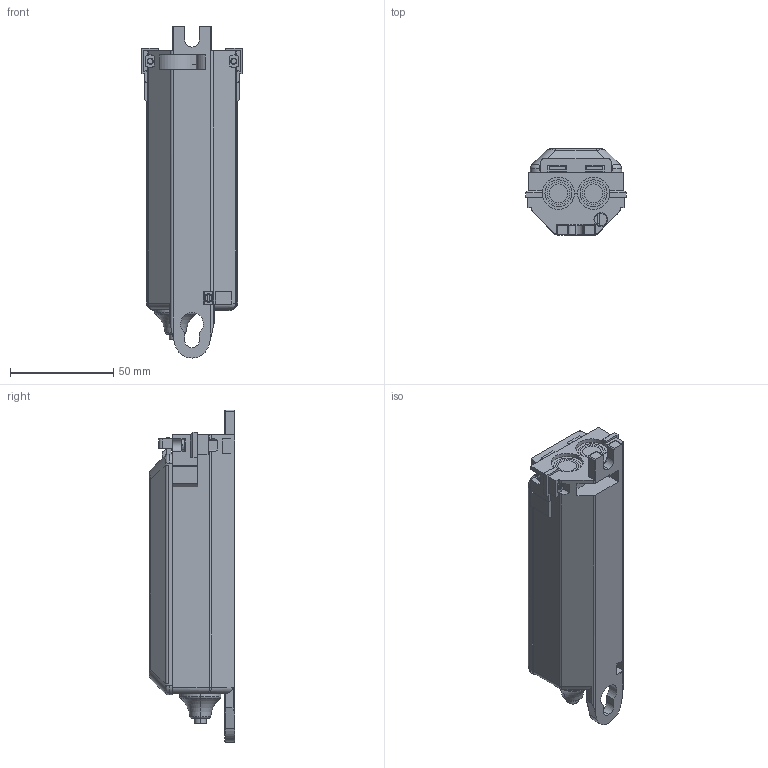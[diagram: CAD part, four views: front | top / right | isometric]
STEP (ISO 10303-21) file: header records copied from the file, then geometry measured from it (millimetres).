
FILE_DESCRIPTION (( 'STEP AP203' ), '1' );
FILE_NAME ('3D - HSW1196 Außenkontur.STEP', '2019-07-17T07:01:05', ( '' ), ( '' ), 'SwSTEP 2.0', 'SolidWorks 2013', '' );
FILE_SCHEMA (( 'CONFIG_CONTROL_DESIGN' ));
Length unit declared in the file: millimetre
Products named in the file (1): 3D - HSW1196 Außenkontur
Bounding box: 48.7 x 41.5 x 160.5 mm (x, y, z)
Surface area: 29223.2 mm2 (no closed solid volume)
Topology: 0 solids, 19 shells, 326 faces, 992 edges, 669 vertices
Faces by surface type: plane 159, cylinder 97, bspline 32, torus 21, cone 13, sphere 4
Entity records: 11927 total; most frequent: CARTESIAN_POINT 3269, DIRECTION 1755, ORIENTED_EDGE 1742, EDGE_CURVE 984, VERTEX_POINT 669, AXIS2_PLACEMENT_3D 595, LINE 565, VECTOR 565
